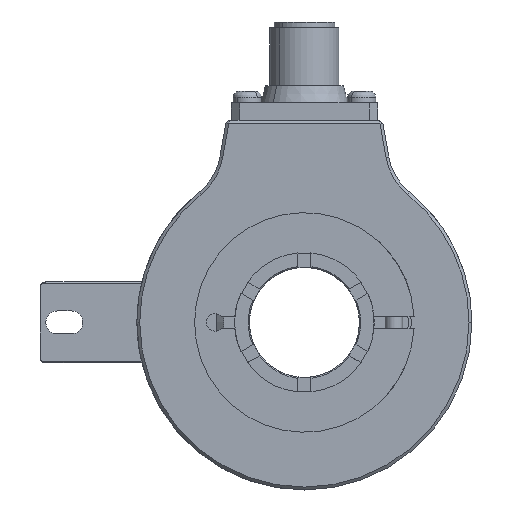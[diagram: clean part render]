
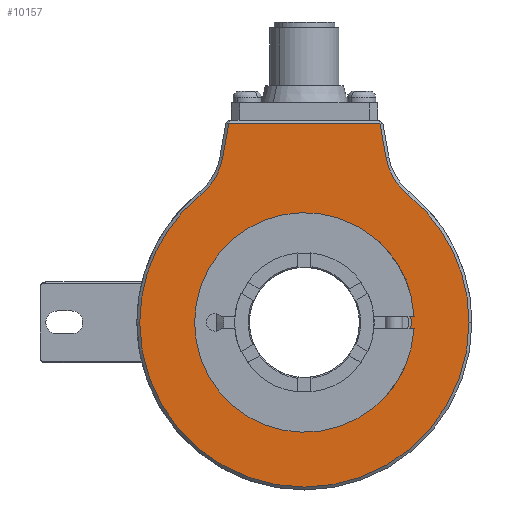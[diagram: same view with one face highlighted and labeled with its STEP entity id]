
A CAD part, left-side view. The second image highlights one B-rep face of the part: STEP entity #10157.
In plain terms, the highlighted planar face has unit normal (-1, 0, 0).
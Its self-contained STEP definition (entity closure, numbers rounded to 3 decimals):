
#118 = ORIENTED_EDGE ( 'NONE', *, *, #2603, .T. ) ;
#449 = FACE_OUTER_BOUND ( 'NONE', #9401, .T. ) ;
#608 = AXIS2_PLACEMENT_3D ( 'NONE', #18006, #4217, #10335 ) ;
#626 = AXIS2_PLACEMENT_3D ( 'NONE', #14962, #1263, #2459 ) ;
#1070 = VECTOR ( 'NONE', #4517, 1000. ) ;
#1263 = DIRECTION ( 'NONE',  ( 1., 0., 0. ) ) ;
#1499 = DIRECTION ( 'NONE',  ( 0., -1., 0. ) ) ;
#1523 = CARTESIAN_POINT ( 'NONE',  ( -27., 18.5, 0. ) ) ;
#1629 = CARTESIAN_POINT ( 'NONE',  ( -27., 28.5, 0. ) ) ;
#1873 = CARTESIAN_POINT ( 'NONE',  ( -27., 0., 0. ) ) ;
#1964 = ORIENTED_EDGE ( 'NONE', *, *, #4040, .T. ) ;
#2063 = EDGE_CURVE ( 'NONE', #7929, #18129, #18799, .T. ) ;
#2076 = DIRECTION ( 'NONE',  ( 0., 1., 0. ) ) ;
#2459 = DIRECTION ( 'NONE',  ( 0., 1., 0. ) ) ;
#2603 = EDGE_CURVE ( 'NONE', #18013, #19118, #15628, .T. ) ;
#3201 = VECTOR ( 'NONE', #5214, 1000. ) ;
#3282 = EDGE_CURVE ( 'NONE', #5182, #6332, #11209, .T. ) ;
#3708 = AXIS2_PLACEMENT_3D ( 'NONE', #16380, #16570, #13299 ) ;
#3831 = CARTESIAN_POINT ( 'NONE',  ( -27., 24.471, 30.367 ) ) ;
#3909 = CARTESIAN_POINT ( 'NONE',  ( -27., 13.08, 34.5 ) ) ;
#3970 = CARTESIAN_POINT ( 'NONE',  ( -27., 17.883, 22.191 ) ) ;
#4040 = EDGE_CURVE ( 'NONE', #10034, #11894, #15212, .T. ) ;
#4217 = DIRECTION ( 'NONE',  ( -1., 0., 0. ) ) ;
#4237 = VERTEX_POINT ( 'NONE', #11416 ) ;
#4517 = DIRECTION ( 'NONE',  ( 0., 0.174, -0.985 ) ) ;
#4864 = FACE_BOUND ( 'NONE', #18843, .T. ) ;
#5182 = VERTEX_POINT ( 'NONE', #10226 ) ;
#5214 = DIRECTION ( 'NONE',  ( 0., 0.174, 0.985 ) ) ;
#5820 = ORIENTED_EDGE ( 'NONE', *, *, #12312, .T. ) ;
#6332 = VERTEX_POINT ( 'NONE', #11628 ) ;
#6567 = DIRECTION ( 'NONE',  ( -1., 0., 0. ) ) ;
#7260 = CIRCLE ( 'NONE', #12370, 28.5 ) ;
#7325 = AXIS2_PLACEMENT_3D ( 'NONE', #3831, #13042, #11738 ) ;
#7544 = ORIENTED_EDGE ( 'NONE', *, *, #2063, .T. ) ;
#7860 = ORIENTED_EDGE ( 'NONE', *, *, #10592, .T. ) ;
#7929 = VERTEX_POINT ( 'NONE', #3970 ) ;
#8170 = PLANE ( 'NONE',  #17860 ) ;
#8820 = EDGE_CURVE ( 'NONE', #16445, #10034, #15881, .T. ) ;
#9401 = EDGE_LOOP ( 'NONE', ( #12216, #18269, #1964, #7860, #7544, #11925, #5820, #13409 ) ) ;
#9867 = VECTOR ( 'NONE', #18675, 1000. ) ;
#10034 = VERTEX_POINT ( 'NONE', #3909 ) ;
#10157 = ADVANCED_FACE ( 'NONE', ( #449, #4864 ), #8170, .T. ) ;
#10226 = CARTESIAN_POINT ( 'NONE',  ( -27., -17.883, 22.191 ) ) ;
#10335 = DIRECTION ( 'NONE',  ( 0., -1., 0. ) ) ;
#10592 = EDGE_CURVE ( 'NONE', #11894, #7929, #19433, .T. ) ;
#10975 = DIRECTION ( 'NONE',  ( 0., -1., 0. ) ) ;
#11209 = CIRCLE ( 'NONE', #18520, 10.5 ) ;
#11416 = CARTESIAN_POINT ( 'NONE',  ( -27., -28.5, 0. ) ) ;
#11628 = CARTESIAN_POINT ( 'NONE',  ( -27., -14.131, 28.544 ) ) ;
#11738 = DIRECTION ( 'NONE',  ( 0., -1., 0. ) ) ;
#11894 = VERTEX_POINT ( 'NONE', #19788 ) ;
#11925 = ORIENTED_EDGE ( 'NONE', *, *, #12083, .T. ) ;
#12083 = EDGE_CURVE ( 'NONE', #18129, #4237, #13937, .T. ) ;
#12216 = ORIENTED_EDGE ( 'NONE', *, *, #14315, .T. ) ;
#12312 = EDGE_CURVE ( 'NONE', #4237, #5182, #7260, .T. ) ;
#12370 = AXIS2_PLACEMENT_3D ( 'NONE', #12877, #15950, #17555 ) ;
#12540 = CIRCLE ( 'NONE', #16037, 18.5 ) ;
#12552 = ORIENTED_EDGE ( 'NONE', *, *, #18555, .T. ) ;
#12877 = CARTESIAN_POINT ( 'NONE',  ( -27., 0., 0. ) ) ;
#13006 = CARTESIAN_POINT ( 'NONE',  ( -27., 29., 34.5 ) ) ;
#13011 = CARTESIAN_POINT ( 'NONE',  ( -27., -17.711, 8.236 ) ) ;
#13042 = DIRECTION ( 'NONE',  ( 1., 0., 0. ) ) ;
#13299 = DIRECTION ( 'NONE',  ( 0., -1., 0. ) ) ;
#13409 = ORIENTED_EDGE ( 'NONE', *, *, #3282, .T. ) ;
#13937 = CIRCLE ( 'NONE', #3708, 28.5 ) ;
#14315 = EDGE_CURVE ( 'NONE', #6332, #16445, #18885, .T. ) ;
#14699 = CARTESIAN_POINT ( 'NONE',  ( -27., -13.08, 34.5 ) ) ;
#14962 = CARTESIAN_POINT ( 'NONE',  ( -27., 0., 0. ) ) ;
#15212 = LINE ( 'NONE', #16996, #1070 ) ;
#15628 = CIRCLE ( 'NONE', #626, 18.5 ) ;
#15636 = CARTESIAN_POINT ( 'NONE',  ( -27., 29., 0. ) ) ;
#15772 = DIRECTION ( 'NONE',  ( 1., 0., 0. ) ) ;
#15881 = LINE ( 'NONE', #13006, #9867 ) ;
#15950 = DIRECTION ( 'NONE',  ( -1., 0., 0. ) ) ;
#16037 = AXIS2_PLACEMENT_3D ( 'NONE', #1873, #15772, #2076 ) ;
#16380 = CARTESIAN_POINT ( 'NONE',  ( -27., 0., 0. ) ) ;
#16445 = VERTEX_POINT ( 'NONE', #14699 ) ;
#16507 = DIRECTION ( 'NONE',  ( 1., 0., 0. ) ) ;
#16570 = DIRECTION ( 'NONE',  ( -1., 0., 0. ) ) ;
#16940 = CARTESIAN_POINT ( 'NONE',  ( -27., -18.5, 0. ) ) ;
#16996 = CARTESIAN_POINT ( 'NONE',  ( -27., 19.46, -1.682 ) ) ;
#17555 = DIRECTION ( 'NONE',  ( 0., -1., 0. ) ) ;
#17860 = AXIS2_PLACEMENT_3D ( 'NONE', #15636, #6567, #10975 ) ;
#17910 = CARTESIAN_POINT ( 'NONE',  ( -27., -24.471, 30.367 ) ) ;
#18006 = CARTESIAN_POINT ( 'NONE',  ( -27., 0., 0. ) ) ;
#18013 = VERTEX_POINT ( 'NONE', #16940 ) ;
#18129 = VERTEX_POINT ( 'NONE', #1629 ) ;
#18269 = ORIENTED_EDGE ( 'NONE', *, *, #8820, .T. ) ;
#18520 = AXIS2_PLACEMENT_3D ( 'NONE', #17910, #16507, #1499 ) ;
#18555 = EDGE_CURVE ( 'NONE', #19118, #18013, #12540, .T. ) ;
#18675 = DIRECTION ( 'NONE',  ( 0., 1., 0. ) ) ;
#18799 = CIRCLE ( 'NONE', #608, 28.5 ) ;
#18843 = EDGE_LOOP ( 'NONE', ( #12552, #118 ) ) ;
#18885 = LINE ( 'NONE', #13011, #3201 ) ;
#19118 = VERTEX_POINT ( 'NONE', #1523 ) ;
#19433 = CIRCLE ( 'NONE', #7325, 10.5 ) ;
#19788 = CARTESIAN_POINT ( 'NONE',  ( -27., 14.131, 28.544 ) ) ;
